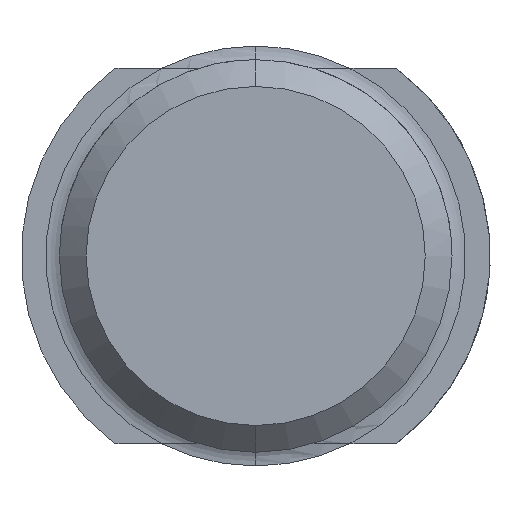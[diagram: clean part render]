
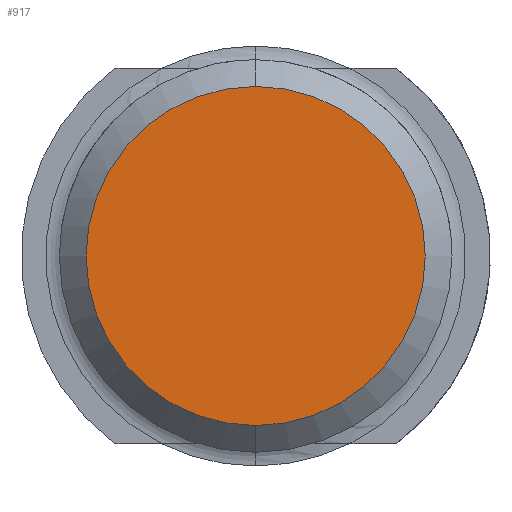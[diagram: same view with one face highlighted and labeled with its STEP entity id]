
A CAD part, left-side view. The second image highlights one B-rep face of the part: STEP entity #917.
In plain terms, the highlighted planar face has unit normal (-1, 0, 0).
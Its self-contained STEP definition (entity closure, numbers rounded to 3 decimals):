
#777=CARTESIAN_POINT('Vertex',(-30.,0.,15.547)) ;
#780=CARTESIAN_POINT('Axis2P3D Location',(-30.,0.,0.)) ;
#784=CARTESIAN_POINT('Vertex',(-30.,-15.547,0.)) ;
#787=CARTESIAN_POINT('Axis2P3D Location',(-30.,0.,0.)) ;
#791=CARTESIAN_POINT('Vertex',(-30.,0.,-15.547)) ;
#813=CARTESIAN_POINT('Axis2P3D Location',(-30.,0.,0.)) ;
#817=CARTESIAN_POINT('Vertex',(-30.,15.547,0.)) ;
#820=CARTESIAN_POINT('Axis2P3D Location',(-30.,0.,0.)) ;
#906=CARTESIAN_POINT('Axis2P3D Location',(-30.,0.,0.)) ;
#781=DIRECTION('Axis2P3D Direction',(1.,0.,-0.)) ;
#788=DIRECTION('Axis2P3D Direction',(1.,0.,-0.)) ;
#814=DIRECTION('Axis2P3D Direction',(1.,0.,-0.)) ;
#821=DIRECTION('Axis2P3D Direction',(1.,0.,-0.)) ;
#907=DIRECTION('Axis2P3D Direction',(1.,0.,-0.)) ;
#908=DIRECTION('Axis2P3D XDirection',(-0.,0.,-1.)) ;
#782=AXIS2_PLACEMENT_3D('Circle Axis2P3D',#780,#781,$) ;
#789=AXIS2_PLACEMENT_3D('Circle Axis2P3D',#787,#788,$) ;
#815=AXIS2_PLACEMENT_3D('Circle Axis2P3D',#813,#814,$) ;
#822=AXIS2_PLACEMENT_3D('Circle Axis2P3D',#820,#821,$) ;
#909=AXIS2_PLACEMENT_3D('Plane Axis2P3D',#906,#907,#908) ;
#912=ORIENTED_EDGE('',*,*,#819,.F.) ;
#913=ORIENTED_EDGE('',*,*,#793,.F.) ;
#914=ORIENTED_EDGE('',*,*,#786,.F.) ;
#915=ORIENTED_EDGE('',*,*,#824,.F.) ;
#917=ADVANCED_FACE('AGS3421M36',(#916),#910,.F.) ;
#783=CIRCLE('generated circle',#782,15.547) ;
#790=CIRCLE('generated circle',#789,15.547) ;
#816=CIRCLE('generated circle',#815,15.547) ;
#823=CIRCLE('generated circle',#822,15.547) ;
#786=EDGE_CURVE('',#778,#785,#783,.T.) ;
#793=EDGE_CURVE('',#785,#792,#790,.T.) ;
#819=EDGE_CURVE('',#792,#818,#816,.T.) ;
#824=EDGE_CURVE('',#818,#778,#823,.T.) ;
#911=EDGE_LOOP('',(#912,#913,#914,#915)) ;
#916=FACE_OUTER_BOUND('',#911,.T.) ;
#910=PLANE('Plane',#909) ;
#778=VERTEX_POINT('',#777) ;
#785=VERTEX_POINT('',#784) ;
#792=VERTEX_POINT('',#791) ;
#818=VERTEX_POINT('',#817) ;
